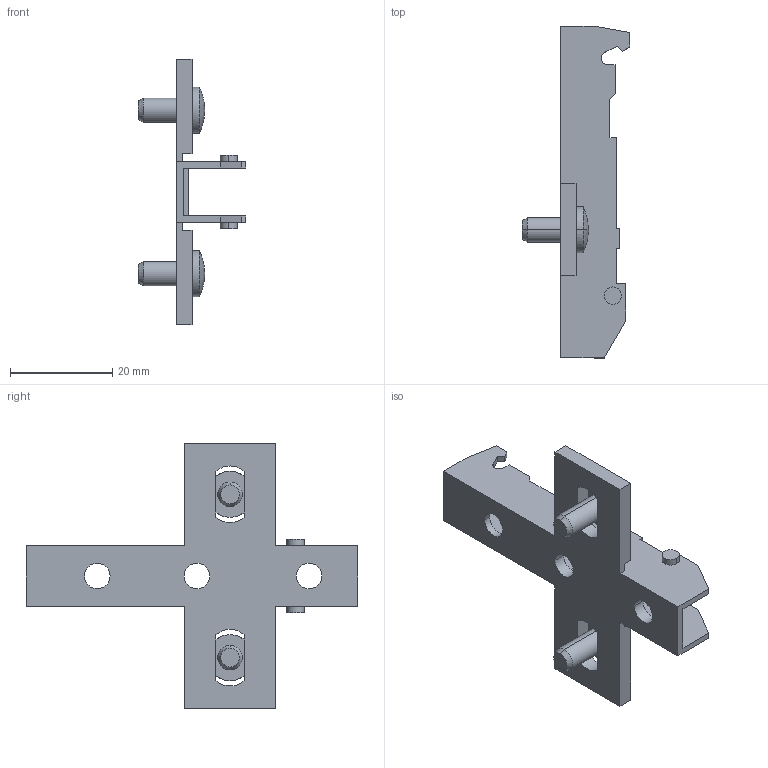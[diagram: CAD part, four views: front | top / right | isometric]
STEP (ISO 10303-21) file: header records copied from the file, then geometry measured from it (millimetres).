
FILE_DESCRIPTION (( 'STEP AP214' ), '1' );
FILE_NAME ('Eco Kreuzmontageplatte LR37_32_Euro_vorm. 10,5mm_H03.step', '2010-11-18T10:06:38', ( 'grass' ), ( '' ), 'SwSTEP 2.0', 'SolidWorks 2010', '' );
FILE_SCHEMA (( 'AUTOMOTIVE_DESIGN' ));
Length unit declared in the file: millimetre
Products named in the file (1): Eco Kreuzmontageplatte LR37_32_Euro_vorm. 10,5mm_H03
Bounding box: 21 x 65 x 52 mm (x, y, z)
Volume: 5105.7 mm3; surface area: 6594.9 mm2
Topology: 1 solids, 1 shells, 104 faces, 292 edges, 190 vertices
Faces by surface type: plane 70, cylinder 26, cone 4, sphere 4
Entity records: 3394 total; most frequent: CARTESIAN_POINT 587, ORIENTED_EDGE 584, DIRECTION 570, EDGE_CURVE 292, LINE 224, VECTOR 224, VERTEX_POINT 190, AXIS2_PLACEMENT_3D 173
